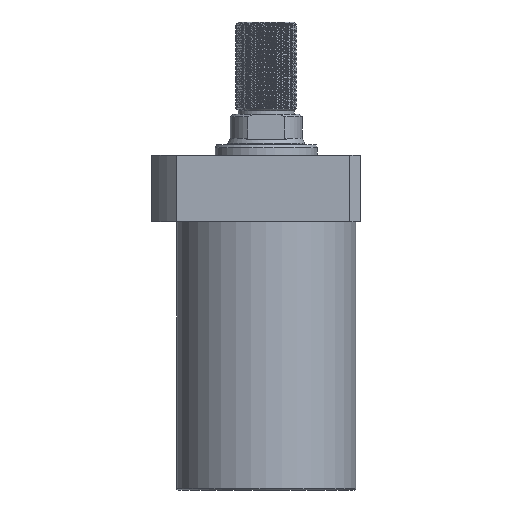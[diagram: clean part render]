
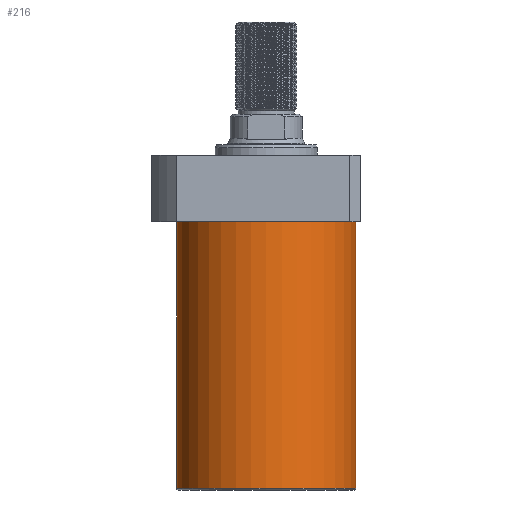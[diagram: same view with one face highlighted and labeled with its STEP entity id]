
A CAD part, front view. The second image highlights one B-rep face of the part: STEP entity #216.
In plain terms, the highlighted cylindrical face has radius 52.5 mm (diameter 105 mm), a partial arc.
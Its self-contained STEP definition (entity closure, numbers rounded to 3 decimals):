
#29 = VECTOR ( 'NONE', #1388, 1000. ) ;
#85 = EDGE_CURVE ( 'NONE', #7272, #3703, #5441, .T. ) ;
#138 = ORIENTED_EDGE ( 'NONE', *, *, #856, .T. ) ;
#216 = ADVANCED_FACE ( 'NONE', ( #4821 ), #1206, .T. ) ;
#856 = EDGE_CURVE ( 'NONE', #6866, #5386, #6537, .T. ) ;
#1206 = CYLINDRICAL_SURFACE ( 'NONE', #3364, 52.5 ) ;
#1267 = AXIS2_PLACEMENT_3D ( 'NONE', #6193, #2309, #6833 ) ;
#1388 = DIRECTION ( 'NONE',  ( 0., 0., 1. ) ) ;
#1906 = CARTESIAN_POINT ( 'NONE',  ( 52.5, 0., -176.5 ) ) ;
#1932 = LINE ( 'NONE', #4600, #29 ) ;
#1964 = CARTESIAN_POINT ( 'NONE',  ( 0., 0., -176.5 ) ) ;
#2306 = DIRECTION ( 'NONE',  ( 0., 0., 1. ) ) ;
#2309 = DIRECTION ( 'NONE',  ( 0., 0., -1. ) ) ;
#2550 = DIRECTION ( 'NONE',  ( 0., 0., 1. ) ) ;
#2705 = CARTESIAN_POINT ( 'NONE',  ( -52.5, 0., -19.5 ) ) ;
#3364 = AXIS2_PLACEMENT_3D ( 'NONE', #1964, #5193, #4547 ) ;
#3703 = VERTEX_POINT ( 'NONE', #4495 ) ;
#4454 = LINE ( 'NONE', #1906, #5793 ) ;
#4495 = CARTESIAN_POINT ( 'NONE',  ( 52.5, 0., -175.5 ) ) ;
#4536 = EDGE_CURVE ( 'NONE', #7272, #5386, #1932, .T. ) ;
#4547 = DIRECTION ( 'NONE',  ( 1., 0., 0. ) ) ;
#4549 = ORIENTED_EDGE ( 'NONE', *, *, #85, .T. ) ;
#4600 = CARTESIAN_POINT ( 'NONE',  ( -52.5, 0., -176.5 ) ) ;
#4821 = FACE_OUTER_BOUND ( 'NONE', #7247, .T. ) ;
#5166 = EDGE_CURVE ( 'NONE', #3703, #6866, #4454, .T. ) ;
#5193 = DIRECTION ( 'NONE',  ( 0., 0., 1. ) ) ;
#5265 = AXIS2_PLACEMENT_3D ( 'NONE', #6190, #2306, #6831 ) ;
#5386 = VERTEX_POINT ( 'NONE', #2705 ) ;
#5441 = CIRCLE ( 'NONE', #5265, 52.5 ) ;
#5793 = VECTOR ( 'NONE', #2550, 1000. ) ;
#5992 = CARTESIAN_POINT ( 'NONE',  ( 52.5, 0., -19.5 ) ) ;
#6190 = CARTESIAN_POINT ( 'NONE',  ( 0., 0., -175.5 ) ) ;
#6193 = CARTESIAN_POINT ( 'NONE',  ( 0., 0., -19.5 ) ) ;
#6228 = ORIENTED_EDGE ( 'NONE', *, *, #4536, .F. ) ;
#6537 = CIRCLE ( 'NONE', #1267, 52.5 ) ;
#6831 = DIRECTION ( 'NONE',  ( -1., 0., 0. ) ) ;
#6833 = DIRECTION ( 'NONE',  ( 1., 0., 0. ) ) ;
#6866 = VERTEX_POINT ( 'NONE', #5992 ) ;
#7247 = EDGE_LOOP ( 'NONE', ( #6228, #4549, #7765, #138 ) ) ;
#7272 = VERTEX_POINT ( 'NONE', #7692 ) ;
#7692 = CARTESIAN_POINT ( 'NONE',  ( -52.5, 0., -175.5 ) ) ;
#7765 = ORIENTED_EDGE ( 'NONE', *, *, #5166, .T. ) ;
